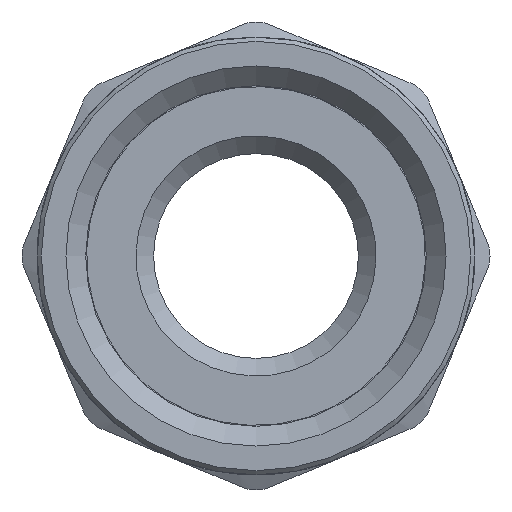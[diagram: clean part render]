
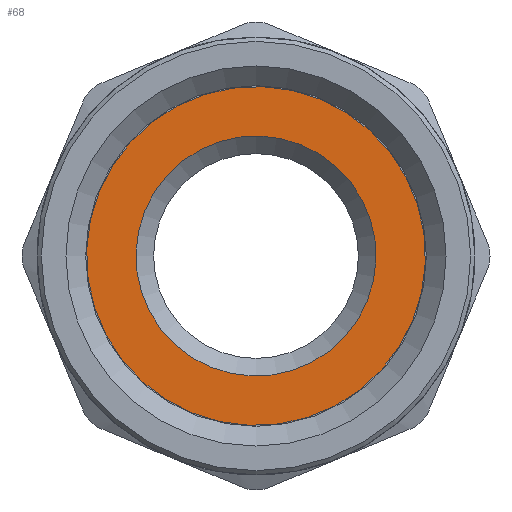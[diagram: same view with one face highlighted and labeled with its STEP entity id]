
A CAD part, left-side view. The second image highlights one B-rep face of the part: STEP entity #68.
In plain terms, the highlighted planar face has unit normal (-1, 0, 0).
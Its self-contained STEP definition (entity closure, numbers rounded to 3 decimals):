
#68=ADVANCED_FACE('',(#274,#276),#278,.F.);
#274=FACE_BOUND('',#275,.T.);
#275=EDGE_LOOP('',(#960));
#276=FACE_BOUND('',#277,.T.);
#277=EDGE_LOOP('',(#961));
#278=PLANE('',#279);
#279=AXIS2_PLACEMENT_3D('',#280,#281,#282);
#280=CARTESIAN_POINT('',(-33.7,0.,0.));
#281=DIRECTION('',(1.,0.,0.));
#282=DIRECTION('',(0.,0.792,-0.611));
#960=ORIENTED_EDGE('',*,*,#1357,.F.);
#961=ORIENTED_EDGE('',*,*,#1365,.T.);
#1357=EDGE_CURVE('',#1573,#1573,#1574,.T.);
#1365=EDGE_CURVE('',#1587,#1587,#1588,.T.);
#1573=VERTEX_POINT('',#1963);
#1574=CIRCLE('',#1964,12.);
#1587=VERTEX_POINT('',#2221);
#1588=CIRCLE('',#2222,8.5);
#1963=CARTESIAN_POINT('',(-33.7,9.499,-7.332));
#1964=AXIS2_PLACEMENT_3D('',#1965,#1966,#1967);
#1965=CARTESIAN_POINT('',(-33.7,0.,0.));
#1966=DIRECTION('',(1.,0.,0.));
#1967=DIRECTION('',(0.,0.792,-0.611));
#2221=CARTESIAN_POINT('',(-33.7,6.729,-5.194));
#2222=AXIS2_PLACEMENT_3D('',#2223,#2224,#2225);
#2223=CARTESIAN_POINT('',(-33.7,0.,0.));
#2224=DIRECTION('',(1.,0.,0.));
#2225=DIRECTION('',(0.,0.792,-0.611));
